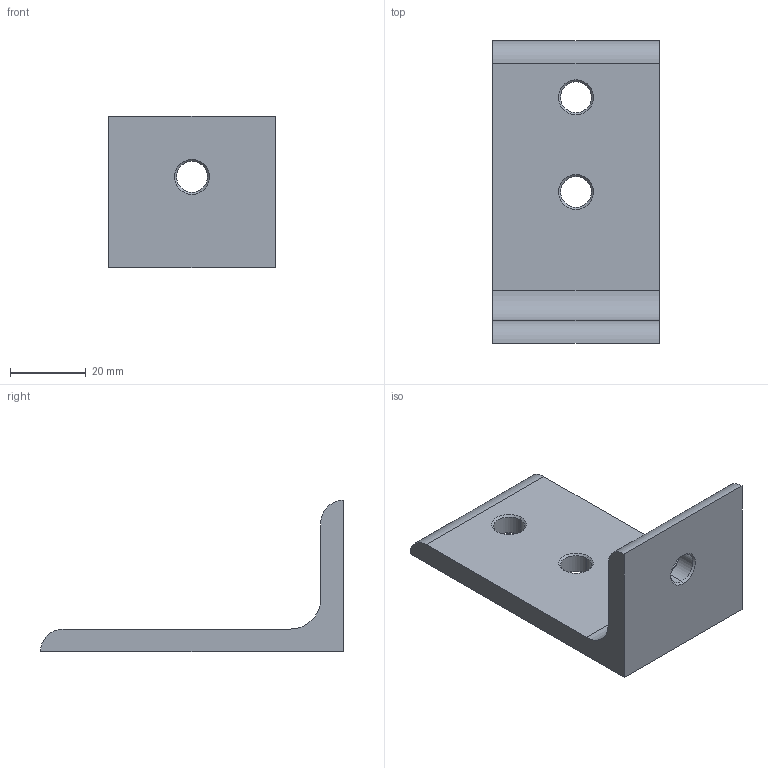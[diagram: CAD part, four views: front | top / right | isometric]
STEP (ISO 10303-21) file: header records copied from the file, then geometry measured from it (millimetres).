
FILE_DESCRIPTION (( 'STEP AP214' ), '1' );
FILE_NAME ('115050AL.STEP', '2017-04-27T11:12:22', ( '' ), ( '' ), 'SwSTEP 2.0', 'SolidWorks 2014', '' );
FILE_SCHEMA (( 'AUTOMOTIVE_DESIGN' ));
Length unit declared in the file: millimetre
Products named in the file (1): 115050AL
Bounding box: 44 x 80 x 40 mm (x, y, z)
Volume: 29049.8 mm3; surface area: 11650.4 mm2
Topology: 1 solids, 1 shells, 27 faces, 63 edges, 38 vertices
Faces by surface type: cone 12, cylinder 9, plane 6
Entity records: 817 total; most frequent: DIRECTION 149, CARTESIAN_POINT 129, ORIENTED_EDGE 126, EDGE_CURVE 63, AXIS2_PLACEMENT_3D 58, VERTEX_POINT 38, LINE 33, EDGE_LOOP 33
